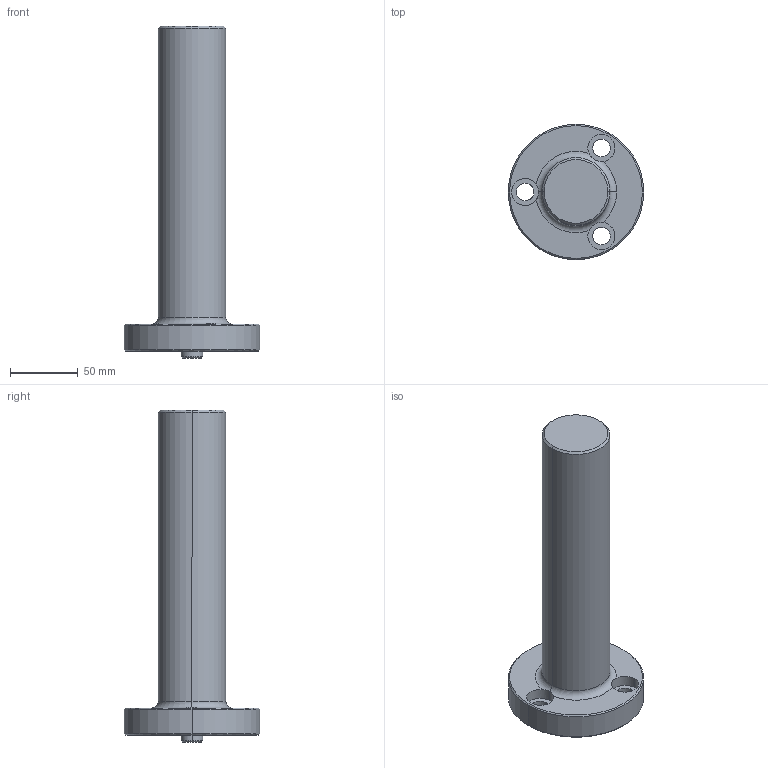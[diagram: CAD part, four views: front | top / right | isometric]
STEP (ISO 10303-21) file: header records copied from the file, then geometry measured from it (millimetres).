
FILE_DESCRIPTION(('CATIA V5 STEP Exchange'),'2;1');
FILE_NAME('C:\Users\Utente\Desktop\IO LAVORO\3D X SITO CF\X 3D SITO CF 27-09-2020\721\721-00 + 240.stp','2020-10-25T12:58:06+00:00',('none'),('none'),'CATIA Version 5 Release 20 GA (IN-10)','CATIA V5 STEP AP203','none');
FILE_SCHEMA(('CONFIG_CONTROL_DESIGN'));
Length unit declared in the file: millimetre
Products named in the file (1): 721-00 + 240
Bounding box: 100 x 100 x 245 mm (x, y, z)
Volume: 578097.9 mm3; surface area: 58124.6 mm2
Topology: 1 solids, 1 shells, 35 faces, 82 edges, 51 vertices
Faces by surface type: cylinder 18, cone 8, plane 7, torus 2
Entity records: 1289 total; most frequent: CARTESIAN_POINT 464, ORIENTED_EDGE 164, DIRECTION 138, EDGE_CURVE 82, AXIS2_PLACEMENT_3D 78, VERTEX_POINT 51, EDGE_LOOP 43, CIRCLE 42
